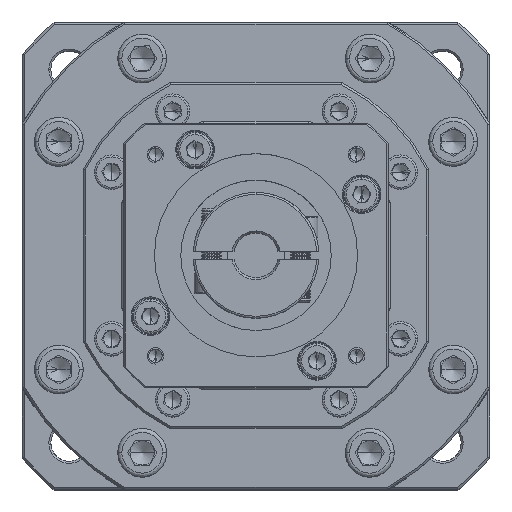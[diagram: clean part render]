
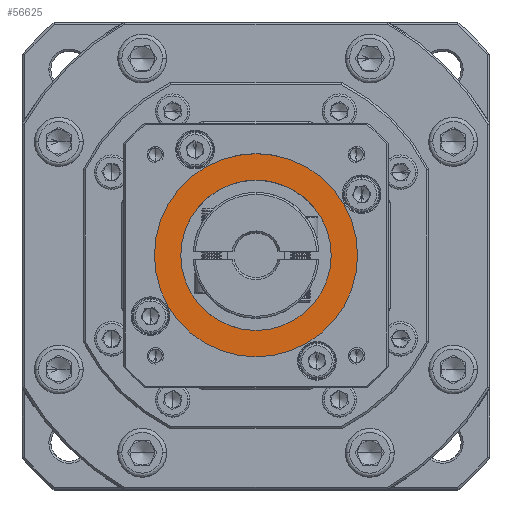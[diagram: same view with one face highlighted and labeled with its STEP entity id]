
A CAD part, top view. The second image highlights one B-rep face of the part: STEP entity #56625.
In plain terms, the highlighted planar face has unit normal (0, 0, 1).
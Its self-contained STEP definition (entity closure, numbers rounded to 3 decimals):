
#7417 = VERTEX_POINT ( 'NONE', #48580 ) ;
#8142 = EDGE_CURVE ( 'NONE', #76918, #7417, #10274, .T. ) ;
#9158 = ORIENTED_EDGE ( 'NONE', *, *, #8142, .T. ) ;
#10274 = CIRCLE ( 'NONE', #19964, 18.5 ) ;
#13027 = VERTEX_POINT ( 'NONE', #140467 ) ;
#19964 = AXIS2_PLACEMENT_3D ( 'NONE', #52631, #139936, #85841 ) ;
#27866 = CARTESIAN_POINT ( 'NONE',  ( 37.981, 107.491, -17.955 ) ) ;
#30702 = AXIS2_PLACEMENT_3D ( 'NONE', #27866, #47310, #48706 ) ;
#30885 = ORIENTED_EDGE ( 'NONE', *, *, #113464, .T. ) ;
#38280 = PLANE ( 'NONE',  #30702 ) ;
#43626 = CARTESIAN_POINT ( 'NONE',  ( 37.981, 107.491, -17.955 ) ) ;
#43825 = DIRECTION ( 'NONE',  ( 0., 1., 0. ) ) ;
#47310 = DIRECTION ( 'NONE',  ( 0., 0., 1. ) ) ;
#48580 = CARTESIAN_POINT ( 'NONE',  ( 37.981, 88.991, -17.955 ) ) ;
#48706 = DIRECTION ( 'NONE',  ( 0., 1., 0. ) ) ;
#50368 = DIRECTION ( 'NONE',  ( 0., 0., 1. ) ) ;
#51286 = CARTESIAN_POINT ( 'NONE',  ( 37.981, 107.491, -17.955 ) ) ;
#52631 = CARTESIAN_POINT ( 'NONE',  ( 37.981, 107.491, -17.955 ) ) ;
#54453 = DIRECTION ( 'NONE',  ( 0., 1., 0. ) ) ;
#56625 = ADVANCED_FACE ( 'NONE', ( #66855, #63465 ), #38280, .T. ) ;
#59362 = ORIENTED_EDGE ( 'NONE', *, *, #97094, .T. ) ;
#63465 = FACE_BOUND ( 'NONE', #64079, .T. ) ;
#64079 = EDGE_LOOP ( 'NONE', ( #9158, #59362 ) ) ;
#64970 = CARTESIAN_POINT ( 'NONE',  ( 37.981, 125.991, -17.955 ) ) ;
#66073 = AXIS2_PLACEMENT_3D ( 'NONE', #43626, #118989, #54453 ) ;
#66855 = FACE_OUTER_BOUND ( 'NONE', #117682, .T. ) ;
#76918 = VERTEX_POINT ( 'NONE', #64970 ) ;
#79109 = CIRCLE ( 'NONE', #106128, 18.5 ) ;
#81418 = ORIENTED_EDGE ( 'NONE', *, *, #129087, .T. ) ;
#85841 = DIRECTION ( 'NONE',  ( 0., 1., 0. ) ) ;
#87911 = DIRECTION ( 'NONE',  ( 0., 0., -1. ) ) ;
#90375 = CARTESIAN_POINT ( 'NONE',  ( 37.981, 82.491, -17.955 ) ) ;
#97094 = EDGE_CURVE ( 'NONE', #7417, #76918, #79109, .T. ) ;
#99360 = AXIS2_PLACEMENT_3D ( 'NONE', #51286, #50368, #105387 ) ;
#105387 = DIRECTION ( 'NONE',  ( 0., 1., 0. ) ) ;
#106128 = AXIS2_PLACEMENT_3D ( 'NONE', #108752, #87911, #43825 ) ;
#108752 = CARTESIAN_POINT ( 'NONE',  ( 37.981, 107.491, -17.955 ) ) ;
#109623 = CIRCLE ( 'NONE', #66073, 25. ) ;
#113464 = EDGE_CURVE ( 'NONE', #123758, #13027, #116458, .T. ) ;
#116458 = CIRCLE ( 'NONE', #99360, 25. ) ;
#117682 = EDGE_LOOP ( 'NONE', ( #81418, #30885 ) ) ;
#118989 = DIRECTION ( 'NONE',  ( 0., 0., 1. ) ) ;
#123758 = VERTEX_POINT ( 'NONE', #90375 ) ;
#129087 = EDGE_CURVE ( 'NONE', #13027, #123758, #109623, .T. ) ;
#139936 = DIRECTION ( 'NONE',  ( 0., 0., -1. ) ) ;
#140467 = CARTESIAN_POINT ( 'NONE',  ( 37.981, 132.491, -17.955 ) ) ;
